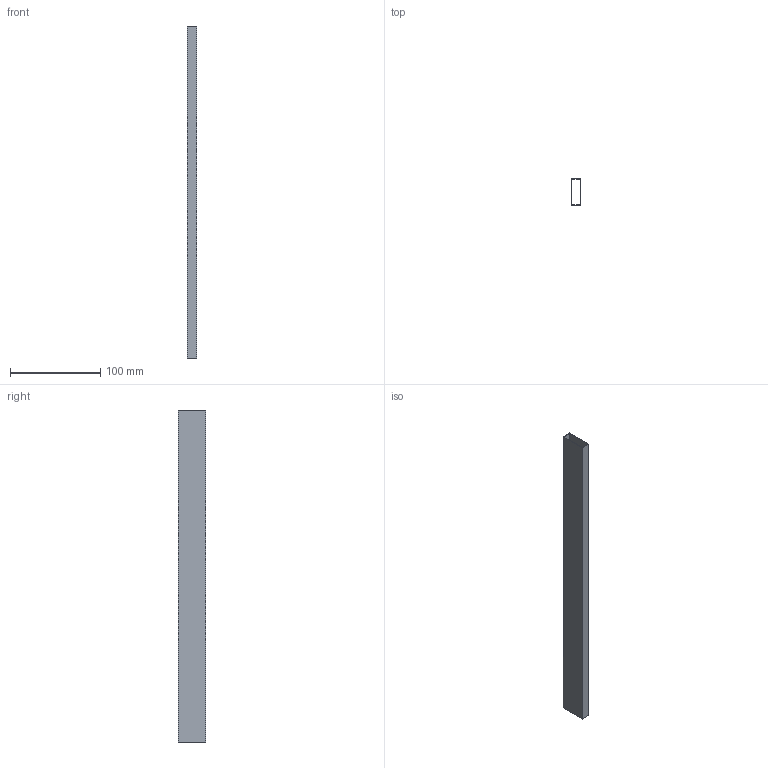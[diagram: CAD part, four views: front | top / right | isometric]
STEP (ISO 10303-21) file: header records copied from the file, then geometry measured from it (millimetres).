
FILE_DESCRIPTION (( 'STEP AP214' ), '1' );
FILE_NAME ('_DWD XP Rechteckreling NL400.step', '2010-07-14T13:27:52', ( 'grass' ), ( '' ), 'SwSTEP 2.0', 'SolidWorks 2010', '' );
FILE_SCHEMA (( 'AUTOMOTIVE_DESIGN' ));
Length unit declared in the file: millimetre
Products named in the file (1): _DWD XP Rechteckreling NL400
Bounding box: 10.5 x 30 x 367.1 mm (x, y, z)
Volume: 17312.4 mm3; surface area: 57802.4 mm2
Topology: 1 solids, 1 shells, 10 faces, 24 edges, 16 vertices
Faces by surface type: plane 10
Entity records: 326 total; most frequent: CARTESIAN_POINT 51, ORIENTED_EDGE 48, DIRECTION 46, LINE 24, VECTOR 24, EDGE_CURVE 24, VERTEX_POINT 16, EDGE_LOOP 12
